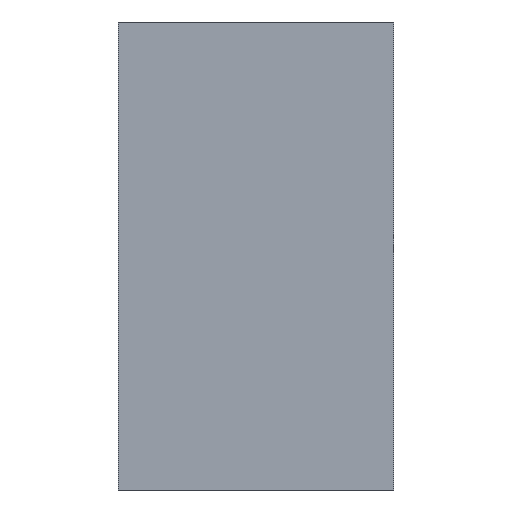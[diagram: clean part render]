
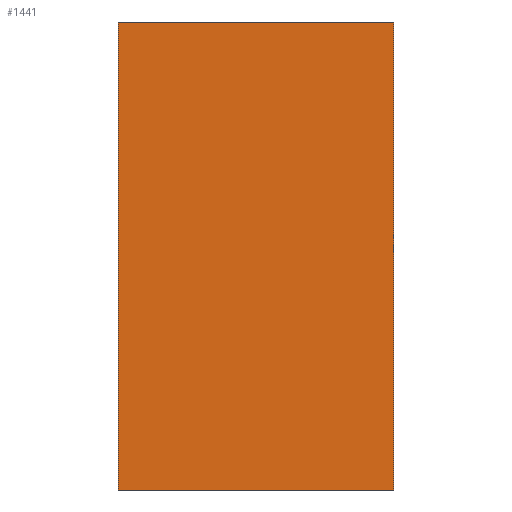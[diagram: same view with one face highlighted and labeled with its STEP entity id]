
A CAD part, left-side view. The second image highlights one B-rep face of the part: STEP entity #1441.
In plain terms, the highlighted planar face has unit normal (-1, 0, 0).
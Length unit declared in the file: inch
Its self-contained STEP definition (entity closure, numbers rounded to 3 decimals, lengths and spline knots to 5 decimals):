
#166 = VECTOR ( 'NONE', #367, 39.37008 ) ;
#178 = LINE ( 'NONE', #1824, #1819 ) ;
#367 = DIRECTION ( 'NONE',  ( 0., -1., 0. ) ) ;
#484 = CARTESIAN_POINT ( 'NONE',  ( -11.56644, 40.45011, 9.11687 ) ) ;
#675 = CARTESIAN_POINT ( 'NONE',  ( -11.56644, 10.74506, -9.11687 ) ) ;
#777 = CARTESIAN_POINT ( 'NONE',  ( -11.56644, 40.45011, 9.11687 ) ) ;
#1130 = VECTOR ( 'NONE', #3501, 39.37008 ) ;
#1441 = ADVANCED_FACE ( 'NONE', ( #5238 ), #6055, .T. ) ;
#1687 = DIRECTION ( 'NONE',  ( 0., 0., -1. ) ) ;
#1819 = VECTOR ( 'NONE', #1879, 39.37008 ) ;
#1824 = CARTESIAN_POINT ( 'NONE',  ( -11.56644, 40.45011, -9.11687 ) ) ;
#1879 = DIRECTION ( 'NONE',  ( 0., -1., 0. ) ) ;
#2158 = VECTOR ( 'NONE', #1687, 39.37008 ) ;
#2755 = VERTEX_POINT ( 'NONE', #10182 ) ;
#3242 = VERTEX_POINT ( 'NONE', #10403 ) ;
#3501 = DIRECTION ( 'NONE',  ( 0., 0., 1. ) ) ;
#3663 = AXIS2_PLACEMENT_3D ( 'NONE', #777, #6831, #9732 ) ;
#4309 = EDGE_CURVE ( 'NONE', #3242, #10872, #4447, .T. ) ;
#4330 = ORIENTED_EDGE ( 'NONE', *, *, #4309, .F. ) ;
#4447 = LINE ( 'NONE', #10767, #2158 ) ;
#4486 = LINE ( 'NONE', #9864, #1130 ) ;
#5147 = ORIENTED_EDGE ( 'NONE', *, *, #9286, .T. ) ;
#5238 = FACE_OUTER_BOUND ( 'NONE', #6811, .T. ) ;
#6055 = PLANE ( 'NONE',  #3663 ) ;
#6672 = ORIENTED_EDGE ( 'NONE', *, *, #9748, .F. ) ;
#6811 = EDGE_LOOP ( 'NONE', ( #6672, #5147, #4330, #11331 ) ) ;
#6831 = DIRECTION ( 'NONE',  ( -1., 0., 0. ) ) ;
#8444 = VERTEX_POINT ( 'NONE', #675 ) ;
#8553 = LINE ( 'NONE', #484, #166 ) ;
#9286 = EDGE_CURVE ( 'NONE', #8444, #10872, #178, .T. ) ;
#9732 = DIRECTION ( 'NONE',  ( 0., 0., 1. ) ) ;
#9748 = EDGE_CURVE ( 'NONE', #8444, #2755, #4486, .T. ) ;
#9864 = CARTESIAN_POINT ( 'NONE',  ( -11.56644, 10.74506, 9.11687 ) ) ;
#10182 = CARTESIAN_POINT ( 'NONE',  ( -11.56644, 10.74506, 9.11687 ) ) ;
#10403 = CARTESIAN_POINT ( 'NONE',  ( -11.56644, 0., 9.11687 ) ) ;
#10767 = CARTESIAN_POINT ( 'NONE',  ( -11.56644, 0., 9.11687 ) ) ;
#10872 = VERTEX_POINT ( 'NONE', #11455 ) ;
#11276 = EDGE_CURVE ( 'NONE', #2755, #3242, #8553, .T. ) ;
#11331 = ORIENTED_EDGE ( 'NONE', *, *, #11276, .F. ) ;
#11455 = CARTESIAN_POINT ( 'NONE',  ( -11.56644, 0., -9.11687 ) ) ;
